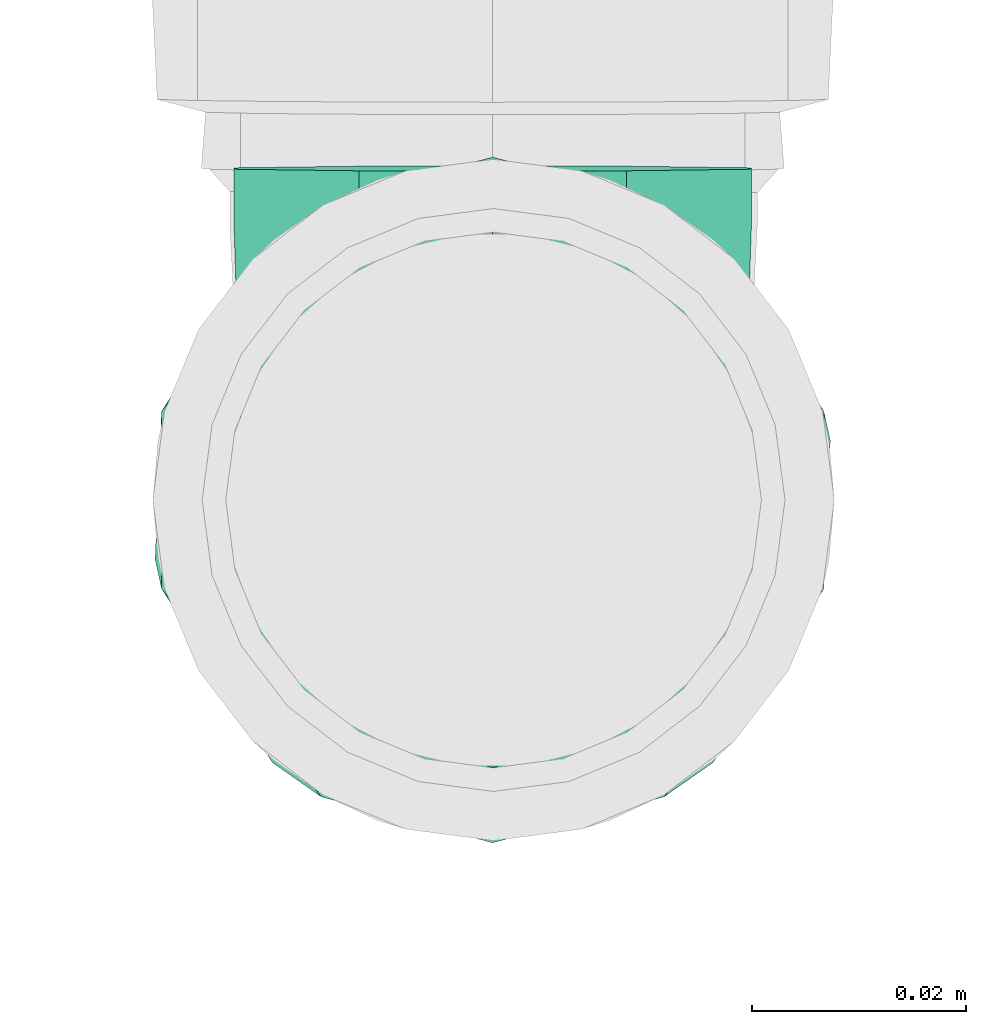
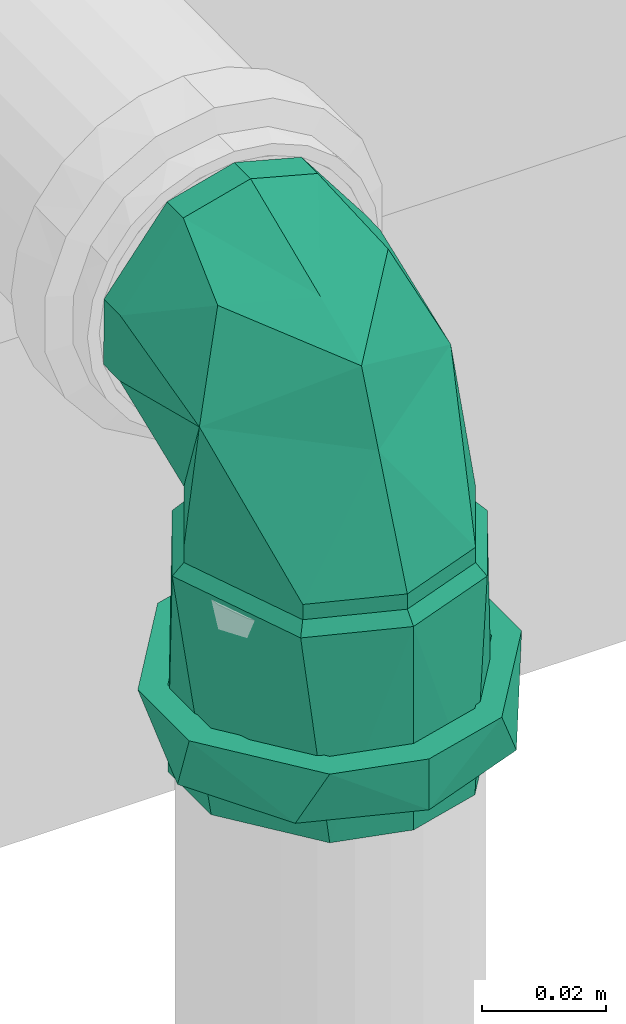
# One storey, part 228 of 589: 1 flow fitting.
"""IFC2X3 building model written with IfcOpenShell, lengths in millimetres."""

from ifc_helpers import new_model, entity, si_unit, converted_unit, derived_unit, direction, frame, origin, place, context, subcontext, project, spatial, faceted_brep, source, transform, mapped, material, type_object, type_shapes, element, save


model = new_model("IFC2X3")

# Units and contexts
model_context = context("Model", 3, precision=0.01, world=origin(), true_north=direction((6.123031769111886e-17, 1.0)))
body_context = subcontext(model_context, "Body", "Model", "MODEL_VIEW")
ifc_project = project(units=[si_unit("LENGTHUNIT", "METRE", prefix="MILLI"), si_unit("AREAUNIT", "SQUARE_METRE"), si_unit("VOLUMEUNIT", "CUBIC_METRE"), converted_unit("PLANEANGLEUNIT", "DEGREE", entity("IfcRatioMeasure", 0.017453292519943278), si_unit("PLANEANGLEUNIT", "RADIAN"), dimensions=[0, 0, 0, 0, 0, 0, 0]), si_unit("MASSUNIT", "GRAM", prefix="KILO"), derived_unit("MASSDENSITYUNIT", [(si_unit("MASSUNIT", "GRAM", prefix="KILO"), 1), (si_unit("LENGTHUNIT", "METRE"), -3)]), derived_unit("IONCONCENTRATIONUNIT", [(si_unit("MASSUNIT", "GRAM", prefix="KILO"), 1), (si_unit("LENGTHUNIT", "METRE"), -3)]), derived_unit("MOMENTOFINERTIAUNIT", [(si_unit("LENGTHUNIT", "METRE"), 4)]), si_unit("TIMEUNIT", "SECOND"), si_unit("FREQUENCYUNIT", "HERTZ"), si_unit("THERMODYNAMICTEMPERATUREUNIT", "DEGREE_CELSIUS"), derived_unit("THERMALTRANSMITTANCEUNIT", [(si_unit("MASSUNIT", "GRAM", prefix="KILO"), 1), (si_unit("THERMODYNAMICTEMPERATUREUNIT", "KELVIN"), -1), (si_unit("TIMEUNIT", "SECOND"), -3)]), derived_unit("THERMALCONDUCTANCEUNIT", [(si_unit("MASSUNIT", "GRAM", prefix="KILO"), 1), (si_unit("THERMODYNAMICTEMPERATUREUNIT", "KELVIN"), -1), (si_unit("TIMEUNIT", "SECOND"), -3), (si_unit("LENGTHUNIT", "METRE"), 1)]), derived_unit("VOLUMETRICFLOWRATEUNIT", [(si_unit("LENGTHUNIT", "METRE"), 3), (si_unit("TIMEUNIT", "SECOND"), -1)]), derived_unit("MASSFLOWRATEUNIT", [(si_unit("MASSUNIT", "GRAM", prefix="KILO"), 1), (si_unit("TIMEUNIT", "SECOND"), -1)]), derived_unit("ROTATIONALFREQUENCYUNIT", [(si_unit("TIMEUNIT", "SECOND"), -1)]), si_unit("ELECTRICCURRENTUNIT", "AMPERE"), si_unit("ELECTRICVOLTAGEUNIT", "VOLT"), si_unit("POWERUNIT", "WATT"), si_unit("FORCEUNIT", "NEWTON", prefix="KILO"), si_unit("ILLUMINANCEUNIT", "LUX"), si_unit("LUMINOUSFLUXUNIT", "LUMEN"), si_unit("LUMINOUSINTENSITYUNIT", "CANDELA"), derived_unit("USERDEFINED", [(si_unit("MASSUNIT", "GRAM", prefix="KILO"), -1), (si_unit("LENGTHUNIT", "METRE"), -2), (si_unit("TIMEUNIT", "SECOND"), 3), (si_unit("LUMINOUSFLUXUNIT", "LUMEN"), 1)]), derived_unit("USERDEFINED", [(si_unit("MASSUNIT", "GRAM", prefix="KILO"), 1), (si_unit("TIMEUNIT", "SECOND"), -3), (si_unit("LENGTHUNIT", "METRE"), 3), (si_unit("ELECTRICCURRENTUNIT", "AMPERE"), -2)]), derived_unit("SOUNDPOWERUNIT", [(si_unit("MASSUNIT", "GRAM", prefix="KILO"), 1), (si_unit("TIMEUNIT", "SECOND"), -3), (si_unit("LENGTHUNIT", "METRE"), 2)]), derived_unit("SOUNDPRESSUREUNIT", [(si_unit("MASSUNIT", "GRAM", prefix="KILO"), 1), (si_unit("LENGTHUNIT", "METRE"), -1), (si_unit("TIMEUNIT", "SECOND"), -2)]), derived_unit("LINEARVELOCITYUNIT", [(si_unit("LENGTHUNIT", "METRE"), 1), (si_unit("TIMEUNIT", "SECOND"), -1)]), si_unit("PRESSUREUNIT", "PASCAL"), derived_unit("USERDEFINED", [(si_unit("MASSUNIT", "GRAM", prefix="KILO"), 1), (si_unit("LENGTHUNIT", "METRE"), -2), (si_unit("TIMEUNIT", "SECOND"), -2)]), derived_unit("LINEARFORCEUNIT", [(si_unit("MASSUNIT", "GRAM", prefix="KILO"), 1), (si_unit("TIMEUNIT", "SECOND"), -2)]), derived_unit("PLANARFORCEUNIT", [(si_unit("MASSUNIT", "GRAM", prefix="KILO"), 1), (si_unit("LENGTHUNIT", "METRE"), -1), (si_unit("TIMEUNIT", "SECOND"), -2)]), derived_unit("SPECIFICHEATCAPACITYUNIT", [(si_unit("THERMODYNAMICTEMPERATUREUNIT", "KELVIN"), -1), (si_unit("LENGTHUNIT", "METRE"), 2), (si_unit("TIMEUNIT", "SECOND"), -2)]), derived_unit("HEATINGVALUEUNIT", [(si_unit("LENGTHUNIT", "METRE"), 2), (si_unit("TIMEUNIT", "SECOND"), -2)]), derived_unit("VAPORPERMEABILITYUNIT", [(si_unit("LENGTHUNIT", "METRE"), -1), (si_unit("TIMEUNIT", "SECOND"), 1)]), derived_unit("DYNAMICVISCOSITYUNIT", [(si_unit("MASSUNIT", "GRAM", prefix="KILO"), 1), (si_unit("TIMEUNIT", "SECOND"), -1), (si_unit("LENGTHUNIT", "METRE"), -1)]), derived_unit("THERMALEXPANSIONCOEFFICIENTUNIT", [(si_unit("THERMODYNAMICTEMPERATUREUNIT", "KELVIN"), -1)]), derived_unit("MODULUSOFELASTICITYUNIT", [(si_unit("MASSUNIT", "GRAM", prefix="KILO"), 1), (si_unit("LENGTHUNIT", "METRE"), -1), (si_unit("TIMEUNIT", "SECOND"), -2)]), derived_unit("ISOTHERMALMOISTURECAPACITYUNIT", [(si_unit("LENGTHUNIT", "METRE"), 3), (si_unit("MASSUNIT", "GRAM", prefix="KILO"), -1)]), derived_unit("MOISTUREDIFFUSIVITYUNIT", [(si_unit("TIMEUNIT", "SECOND"), -1), (si_unit("LENGTHUNIT", "METRE"), 2)])], contexts=[model_context])

# Site, building, storey
site_placement = place(None, origin())
site = spatial("IfcSite", under=ifc_project, at=site_placement, Name="Default", CompositionType="ELEMENT")
building_placement = place(site_placement, origin())
building = spatial("IfcBuilding", under=site, at=building_placement, CompositionType="ELEMENT")
storey_placement = place(building_placement, frame((0.0, 0.0, 100.0)))
storey = spatial("IfcBuildingStorey", under=building, at=storey_placement, Name="TÉRREO", CompositionType="ELEMENT", Elevation=100.0)

# Flow fitting
ifc_material = material(Name="PVC Série Normal")
pipe_fitting_type = type_object("IfcPipeFittingType", Name="PVC Esgoto_Joelho 45_90_Rodrigo MEP:a. Série Normal", PredefinedType="NOTDEFINED", material=ifc_material)
shared_shape = source(origin(), body_context, "Body", "Brep", [
    faceted_brep([(-6.212752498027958, 25.804714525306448, 24.14814565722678), (-21.392152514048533, 25.95650852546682, 12.500000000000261), (-24.741349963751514, 25.990000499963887, 0.0), (-21.392152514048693, 25.956508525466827, -12.499999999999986), (-6.21275249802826, 25.804714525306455, -24.1481456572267), (6.727552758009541, 25.675311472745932, -24.14814565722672), (21.906952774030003, 25.52351747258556, -12.500000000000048), (25.256150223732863, 25.490025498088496, 0.0), (21.906952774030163, 25.52351747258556, 12.499999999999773), (6.7275527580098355, 25.675311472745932, 24.148145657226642), (25.308147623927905, 30.689765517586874, 0.0), (21.958950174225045, 30.72325749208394, -12.500000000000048), (6.779550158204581, 30.87505149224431, -24.14814565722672), (-6.160755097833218, 31.004454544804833, -24.1481456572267), (-21.34015511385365, 31.156248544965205, -12.499999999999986), (-24.689352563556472, 31.18974051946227, 0.0), (-21.340155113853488, 31.1562485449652, 12.500000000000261), (-6.160755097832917, 31.00445454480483, 24.14814565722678), (6.779550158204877, 30.87505149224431, 24.148145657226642), (21.958950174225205, 30.72325749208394, 12.499999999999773)], [[[0, 1, 2, 3, 4, 5, 6, 7, 8, 9]], [[10, 11, 12, 13, 14, 15, 16, 17, 18, 19]], [[7, 10, 19, 8]], [[8, 19, 18, 9]], [[18, 17, 0, 9]], [[0, 17, 16, 1]], [[1, 16, 15, 2]], [[2, 15, 14, 3]], [[3, 14, 13, 4]], [[13, 12, 5, 4]], [[5, 12, 11, 6]], [[6, 11, 10, 7]]]),
    faceted_brep([(-70.94129996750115, -6.988114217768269, -26.07999730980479), (-70.94129996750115, -6.47047612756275, -24.14814565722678), (-70.94129996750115, 6.4704761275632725, -24.148145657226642), (-70.94129996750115, -23.382685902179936, -13.499999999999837), (-70.94129996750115, 6.988114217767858, -26.0799973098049), (-70.94129996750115, -21.650635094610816, -12.500000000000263), (-70.94129996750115, -25.0, 0.0), (-70.94129996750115, -27.0, 0.0), (-70.94129996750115, -21.650635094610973, 12.499999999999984), (-70.94129996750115, -23.382685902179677, 13.500000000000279), (-70.94129996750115, -6.470476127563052, 24.1481456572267), (-70.94129996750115, -6.98811421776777, 26.079997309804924), (-70.94129996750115, 6.470476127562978, 24.14814565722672), (-70.94129996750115, 6.988114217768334, 26.07999730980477), (-70.94129996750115, 21.650635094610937, 12.500000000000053), (-70.94129996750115, 23.38268590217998, 13.499999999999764), (-70.94129996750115, 27.0, 0.0), (-70.94129996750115, 25.0, 0.0), (-70.94129996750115, 23.382685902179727, -13.500000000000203), (-70.94129996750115, 21.6506350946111, -12.499999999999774), (-30.94129996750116, 21.650635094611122, -12.499999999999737), (-30.94129996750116, 25.0, 0.0), (-30.94129996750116, 6.4704761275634, -24.148145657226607), (-30.94129996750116, -6.470476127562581, -24.148145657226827), (-30.94129996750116, -21.650635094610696, -12.500000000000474), (-30.94129996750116, -25.0, 0.0), (-30.94129996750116, -21.65063509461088, 12.500000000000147), (-30.94129996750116, -6.470476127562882, 24.14814565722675), (-30.94129996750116, 6.470476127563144, 24.148145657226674), (-30.94129996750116, 21.650635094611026, 12.499999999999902), (-30.94129996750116, 27.0, 0.0), (-30.941299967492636, 20.682232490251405, 17.356418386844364), (-30.94129996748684, 4.685536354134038, 26.59033187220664), (-30.94129996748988, -20.686585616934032, 17.35122979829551), (-30.94129996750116, -27.0, 0.0), (-30.941299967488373, -8.000524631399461, 21.970780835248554), (-30.94129996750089, -20.686585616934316, -17.35122979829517), (-30.9412999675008, -4.6922062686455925, -26.589155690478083), (-30.94129996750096, 20.682232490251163, -17.356418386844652), (-30.94129996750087, 7.995013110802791, -21.97278703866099), (-28.74129996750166, -4.338459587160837, -24.62067765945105), (-28.741299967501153, 25.0, 0.0), (-28.741299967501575, 19.154245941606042, -16.065953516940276), (-28.741299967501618, 7.407893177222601, -20.34331558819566), (-28.741299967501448, -19.15021526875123, -16.070757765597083), (-28.741299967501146, -25.0, 0.0), (-28.741299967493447, -19.150215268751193, 16.07075776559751), (-28.741299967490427, -7.402789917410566, 20.345173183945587), (-28.74129996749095, 19.15424594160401, 16.065953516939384), (-28.741299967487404, 4.344635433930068, 24.619588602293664), (-25.741299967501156, 25.0, 0.0), (-25.741299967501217, 19.151286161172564, 16.069481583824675), (-25.741299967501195, 4.341396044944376, 24.62016003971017), (-25.741299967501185, -7.404832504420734, 20.344954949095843), (-25.741299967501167, -19.15106105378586, 16.069749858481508), (-25.741299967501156, -25.0, 0.0), (-25.741299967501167, -19.15106105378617, -16.069749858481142), (-25.741299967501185, -4.341051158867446, -24.62022085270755), (-25.741299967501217, 19.15128616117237, -16.069481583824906), (-25.7412999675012, 7.405117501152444, -20.344851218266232), (-6.212752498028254, 25.80471452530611, -24.1481456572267), (-21.39215251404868, 25.95650852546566, -12.499999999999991), (-24.74134996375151, 25.990000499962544, 0.0), (-21.3921525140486, 25.956508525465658, 12.500000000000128), (-6.2127524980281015, 25.80471452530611, 24.14814565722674), (6.7275527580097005, 25.67531147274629, 24.148145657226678), (21.906952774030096, 25.52351747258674, 12.499999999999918), (25.256150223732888, 25.490025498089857, 0.0), (21.90695277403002, 25.523517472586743, -12.500000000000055), (6.727552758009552, 25.67531147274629, -24.14814565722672), (-0.83580225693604, 1.5246716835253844, 23.354962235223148), (-3.2027279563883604, -15.730161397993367, 0.0), (10.140389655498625, -10.242300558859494, 0.0), (16.135012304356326, 8.632944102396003, 15.848254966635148), (-25.03773742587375, 25.289366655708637, 0.0), (15.761400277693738, 3.0452732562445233, 0.0), (16.135011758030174, 8.632944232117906, -15.848255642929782), (-0.8751695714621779, 1.433288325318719, -23.341145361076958)], [[[0, 1, 2]], [[1, 0, 3]], [[2, 4, 0]], [[3, 5, 1]], [[3, 6, 5]], [[6, 3, 7]], [[8, 6, 7]], [[8, 7, 9]], [[9, 10, 8]], [[9, 11, 10]], [[10, 11, 12]], [[13, 12, 11]], [[13, 14, 12]], [[14, 13, 15]], [[16, 14, 15]], [[17, 14, 16]], [[18, 17, 16]], [[18, 19, 17]], [[19, 18, 4]], [[4, 2, 19]], [[20, 21, 17, 19]], [[22, 20, 19, 2]], [[2, 1, 23, 22]], [[24, 23, 1, 5]], [[25, 24, 5, 6]], [[26, 25, 6, 8]], [[27, 26, 8, 10]], [[10, 12, 28, 27]], [[29, 28, 12, 14]], [[21, 29, 14, 17]], [[16, 15, 30]], [[15, 31, 30]], [[31, 15, 13]], [[31, 13, 32]], [[33, 11, 9]], [[34, 9, 7]], [[11, 33, 35, 32]], [[33, 9, 34]], [[11, 32, 13]], [[7, 3, 34]], [[3, 36, 34]], [[36, 3, 0]], [[36, 0, 37]], [[38, 4, 18]], [[30, 18, 16]], [[4, 38, 39, 37]], [[38, 18, 30]], [[4, 37, 0]], [[28, 29, 21, 20, 22, 23, 24, 25, 26, 27]], [[39, 40, 37]], [[41, 42, 30]], [[30, 42, 38]], [[38, 43, 39]], [[44, 45, 36]], [[38, 42, 43]], [[36, 37, 44]], [[34, 36, 45]], [[40, 39, 43]], [[44, 37, 40]], [[45, 46, 33]], [[33, 34, 45]], [[46, 35, 33]], [[46, 47, 35]], [[47, 32, 35]], [[48, 41, 30]], [[48, 31, 49]], [[31, 48, 30]], [[32, 47, 49]], [[49, 31, 32]], [[41, 48, 50]], [[48, 51, 50]], [[51, 48, 49]], [[51, 49, 52]], [[52, 47, 53]], [[46, 54, 53]], [[46, 45, 54]], [[49, 47, 52]], [[54, 45, 55]], [[47, 46, 53]], [[45, 44, 56]], [[45, 56, 55]], [[56, 44, 57]], [[58, 59, 43]], [[44, 40, 57]], [[40, 59, 57]], [[58, 43, 42]], [[42, 50, 58]], [[50, 42, 41]], [[59, 40, 43]], [[60, 61, 62, 63, 64, 65, 66, 67, 68, 69]], [[52, 70, 51]], [[54, 71, 70]], [[70, 52, 53, 54]], [[72, 73, 70]], [[50, 63, 74]], [[51, 63, 50]], [[54, 55, 71]], [[72, 70, 71]], [[75, 67, 66]], [[65, 70, 73]], [[73, 75, 66]], [[74, 63, 62]], [[73, 66, 65]], [[63, 51, 64]], [[70, 64, 51]], [[73, 72, 75]], [[65, 64, 70]], [[72, 76, 75]], [[71, 55, 56]], [[77, 58, 60]], [[77, 57, 59, 58]], [[77, 71, 56]], [[56, 57, 77]], [[77, 69, 76]], [[58, 50, 61]], [[74, 62, 61]], [[71, 77, 72]], [[61, 60, 58]], [[68, 75, 76]], [[68, 67, 75]], [[72, 77, 76]], [[76, 69, 68]], [[60, 69, 77]], [[61, 50, 74]]]),
    faceted_brep([(-53.94129996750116, 6.9881142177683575, -26.07999730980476), (-53.94129996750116, -6.988114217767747, -26.079997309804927), (-53.94129996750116, -8.282209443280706, -30.909626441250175), (-53.94129996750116, 8.28220944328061, -30.9096264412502), (-53.94129996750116, 23.38268590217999, -13.499999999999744), (-53.94129996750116, -27.712812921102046, -16.0), (-53.94129996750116, -23.38268590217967, -13.500000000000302), (-53.94129996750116, -27.0, 0.0), (-53.94129996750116, -32.0, 0.0), (-53.94129996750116, -23.382685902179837, 13.500000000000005), (-53.94129996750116, -27.712812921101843, 16.0), (-53.94129996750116, -6.988114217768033, 26.07999730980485), (-53.94129996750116, -8.28220944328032, 30.909626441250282), (-53.94129996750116, 6.988114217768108, 26.07999730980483), (-53.94129996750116, 8.282209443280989, 30.909626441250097), (-53.94129996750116, 23.382685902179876, 13.499999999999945), (-53.94129996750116, 27.712812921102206, 16.0), (-53.94129996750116, 32.0, 0.0), (-53.94129996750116, 27.0, 0.0), (-53.94129996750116, 27.712812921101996, -16.0), (-63.94129996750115, 27.0, 0.0), (-65.24129996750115, 27.0, 0.0), (-63.94129996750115, 25.191342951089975, -6.750000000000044), (-63.94129996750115, 23.38268590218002, -13.499999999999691), (-63.94129996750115, 19.284042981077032, -16.644999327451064), (-63.94129996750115, 15.185400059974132, -19.789998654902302), (-63.94129996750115, 11.086757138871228, -22.934997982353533), (-63.94129996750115, 6.988114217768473, -26.07999730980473), (-63.94129996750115, 0.0, -26.079997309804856), (-63.94129996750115, -6.988114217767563, -26.079997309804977), (-63.94129996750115, -11.086757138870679, -22.934997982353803), (-63.94129996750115, -15.185400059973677, -19.789998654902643), (-63.94129996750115, -19.284042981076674, -16.644999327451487), (-63.94129996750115, -23.382685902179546, -13.50000000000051), (-63.94129996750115, -25.191342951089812, -6.750000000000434), (-65.24129996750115, -27.0, 0.0), (-63.94129996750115, -27.0, 0.0), (-63.94129996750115, -25.19134295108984, 6.750000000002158), (-63.94129996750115, -23.382685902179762, 13.500000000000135), (-63.94129996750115, -19.284042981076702, 16.64499932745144), (-63.94129996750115, -15.185400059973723, 19.7899986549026), (-63.94129996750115, -11.086757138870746, 22.934997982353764), (-63.94129996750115, -6.988114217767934, 26.079997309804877), (-63.94129996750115, 0.0, 26.079997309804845), (-63.94129996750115, 6.988114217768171, 26.079997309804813), (-63.94129996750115, 11.086757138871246, 22.93499798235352), (-63.94129996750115, 15.185400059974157, 19.789998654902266), (-63.94129996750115, 19.284042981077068, 16.644999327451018), (-63.94129996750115, 23.382685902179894, 13.499999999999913), (-63.94129996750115, 25.19134295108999, 6.74999999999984), (-63.94129996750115, 32.0, 0.0), (-63.94129996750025, 24.512275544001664, 20.570569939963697), (-63.94129996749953, -5.561133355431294, 31.51307341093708), (-63.94129996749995, -24.51743480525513, 20.56442050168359), (-63.94129996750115, -32.0, 0.0), (-63.9412999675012, -24.51743480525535, -20.564420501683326), (-63.941299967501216, 5.553228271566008, -31.514467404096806), (-63.94129996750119, 24.512275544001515, -20.570569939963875), (-65.2412999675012, -23.84329280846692, -8.675614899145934), (-65.24129996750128, -20.686585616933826, -17.351229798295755), (-65.24129996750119, 23.841116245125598, -8.678209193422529), (-65.24129996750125, 20.6822324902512, -17.356418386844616), (-65.24129996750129, -12.689395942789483, -21.970192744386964), (-65.24129996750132, -4.692206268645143, -26.589155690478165), (-65.24129996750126, 14.338622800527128, -19.664602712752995), (-65.24129996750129, 1.6514034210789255, -24.280971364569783), (-65.24129996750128, 7.995013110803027, -21.97278703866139), (-65.24129996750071, 23.84111624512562, 8.678209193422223), (-65.24129996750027, 20.68223249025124, 17.35641838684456), (-65.24129996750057, -23.843292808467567, 8.675614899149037), (-65.24129996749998, -20.68658561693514, 17.351229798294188), (-65.24129996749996, 12.683884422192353, 21.973375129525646), (-65.24129996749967, 4.685536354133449, 26.590331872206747), (-65.2412999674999, -14.343555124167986, 19.66100531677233), (-65.24129996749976, -1.6574941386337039, 24.280556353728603), (-65.24129996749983, -8.000524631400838, 21.97078083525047)], [[[0, 1, 2]], [[2, 3, 0]], [[4, 0, 3]], [[5, 2, 1]], [[1, 6, 5]], [[6, 7, 5]], [[8, 5, 7]], [[8, 7, 9]], [[10, 8, 9]], [[9, 11, 10]], [[11, 12, 10]], [[13, 12, 11]], [[12, 13, 14]], [[13, 15, 14]], [[16, 14, 15]], [[16, 15, 17]], [[17, 15, 18]], [[18, 4, 19]], [[17, 18, 19]], [[3, 19, 4]], [[4, 18, 20, 21, 22, 23]], [[0, 4, 23, 24, 25, 26, 27]], [[0, 27, 28, 29, 1]], [[6, 1, 29, 30, 31, 32, 33]], [[7, 6, 33, 34, 35, 36]], [[9, 7, 36, 35, 37, 38]], [[11, 9, 38, 39, 40, 41, 42]], [[11, 42, 43, 44, 13]], [[15, 13, 44, 45, 46, 47, 48]], [[18, 15, 48, 49, 21, 20]], [[50, 51, 16]], [[50, 16, 17]], [[16, 51, 14]], [[51, 52, 14]], [[12, 52, 53]], [[10, 53, 54]], [[53, 10, 12]], [[10, 54, 8]], [[52, 12, 14]], [[54, 55, 5]], [[54, 5, 8]], [[5, 55, 2]], [[55, 56, 2]], [[3, 56, 57]], [[19, 57, 50]], [[57, 19, 3]], [[19, 50, 17]], [[56, 3, 2]], [[58, 33, 59]], [[23, 60, 61]], [[32, 31, 59, 33]], [[30, 29, 62, 31]], [[24, 23, 61, 25]], [[29, 28, 63]], [[26, 25, 64]], [[65, 63, 28]], [[31, 62, 59]], [[63, 62, 29]], [[60, 22, 21]], [[34, 58, 35]], [[66, 26, 64]], [[28, 27, 65]], [[27, 66, 65]], [[27, 26, 66]], [[64, 25, 61]], [[34, 33, 58]], [[60, 23, 22]], [[67, 48, 68]], [[38, 69, 70]], [[47, 46, 68, 48]], [[45, 44, 71, 46]], [[39, 38, 70, 40]], [[44, 43, 72]], [[41, 40, 73]], [[74, 72, 43]], [[46, 71, 68]], [[72, 71, 44]], [[69, 37, 35]], [[49, 67, 21]], [[75, 41, 73]], [[43, 42, 74]], [[42, 75, 74]], [[42, 41, 75]], [[73, 40, 70]], [[49, 48, 67]], [[69, 38, 37]], [[54, 35, 58, 59, 55]], [[55, 59, 62, 63]], [[55, 63, 56]], [[57, 61, 60, 21, 50]], [[57, 56, 61]], [[56, 63, 65, 66, 64, 61]], [[50, 21, 67, 68, 51]], [[51, 68, 71, 72]], [[51, 72, 52]], [[53, 70, 69, 35, 54]], [[53, 52, 70]], [[52, 72, 74, 75, 73, 70]]]),
])
type_shapes(pipe_fitting_type, [shared_shape])
flow_fitting_placement = place(storey_placement, frame((13750.348087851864, -2133.5587716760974, 2988.2), z_axis=(-1.0, 0.0, 0.0), x_axis=(0.0, 0.0, 1.0)))
element("IfcFlowFitting", 1, at=flow_fitting_placement, inside=storey, type_object=pipe_fitting_type, material=ifc_material, Name="PVC Esgoto_Joelho 45_90_Rodrigo MEP:a. Série Normal", ObjectType="PVC Esgoto_Joelho 45_90_Rodrigo MEP:a. Série Normal", context=body_context, shape_type="MappedRepresentation", body=[
    mapped(shared_shape, transform((0.0, 0.0, 0.0), scale=1.0)),
])

save(model, "model.ifc")
